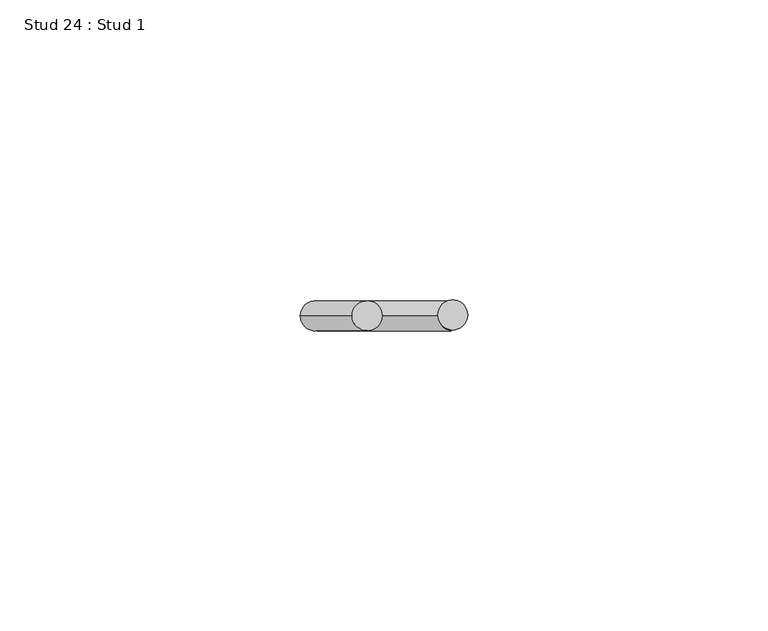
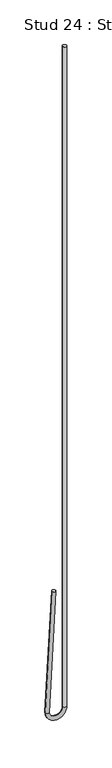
"""IFC4 building model written with IfcOpenShell, lengths in millimetres: proxy geometry, Stud 24 : Stud 1."""

from ifc_helpers import new_model, si_unit, point, frame, origin, place, context, project, spatial, circle_curve, ellipse_curve, trimmed, source, transform, mapped, element, save
from ifc_brep_helpers import plane_surface, cylinder_surface, revolved_surface, advanced_brep


def stud_24_stud_1_f3d8cce4(model_context):
    return source(origin(), model_context, "Body", "AdvancedBrep", [
        advanced_brep(
        [(-13440.3532788, 4624.5191481, 3640.800192), (-13435.3601311, 4624.5191481, 3640.5385122), (-13448.9939451, 4624.5191481, 3475.9264558), (-13444.0007975, 4624.5191481, 3475.664776), (-13426.0920812, 4624.5191481, 3475.7956159), (-13421.0920812, 4624.5191481, 3475.7956159), (-13421.0920812, 4624.5191481, 4390.1956159), (-13426.0920812, 4624.5191481, 4390.1956159)],
        [
            (0, 1, circle_curve(frame((-13437.8567049, 4624.5191481, 3640.6693521), z_axis=(0.05233595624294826, 0.0, 0.9986295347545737), x_axis=(0.9986295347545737, 0.0, -0.05233595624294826)), 2.5)),
            (1, 0, circle_curve(frame((-13437.8567049, 4624.5191481, 3640.6693521), z_axis=(0.05233595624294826, 0.0, 0.9986295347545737), x_axis=(0.9986295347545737, 0.0, -0.05233595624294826)), 2.5)),
            (0, 2),
            (2, 3, circle_curve(frame((-13446.4973713, 4624.5191481, 3475.7956159), z_axis=(0.05233595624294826, 0.0, 0.9986295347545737), x_axis=(0.9986295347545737, 0.0, -0.05233595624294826)), 2.5)),
            (3, 1),
            (3, 2, circle_curve(frame((-13446.4973713, 4624.5191481, 3475.7956159), z_axis=(0.05233595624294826, 0.0, 0.9986295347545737), x_axis=(0.9986295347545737, 0.0, -0.05233595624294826)), 2.5)),
            (4, 3, circle_curve(frame((-13435.0447263, 4624.5191481, 3475.7956159), z_axis=(0.0, 1.0, 0.0), x_axis=(-1.0, 0.0, 0.0)), 8.952645)),
            (2, 5, circle_curve(frame((-13435.0447263, 4624.5191481, 3475.7956159), z_axis=(0.0, -1.0, 0.0), x_axis=(-1.0, 0.0, 0.0)), 13.952645)),
            (5, 4, circle_curve(frame((-13423.5920812, 4624.5191481, 3475.7956159), z_axis=(0.0, 0.0, -1.0), x_axis=(-1.0, 0.0, 0.0)), 2.5)),
            (4, 5, circle_curve(frame((-13423.5920812, 4624.5191481, 3475.7956159), z_axis=(0.0, 0.0, -1.0), x_axis=(-1.0, 0.0, 0.0)), 2.5)),
            (6, 7, circle_curve(frame((-13423.5920812, 4624.5191481, 4390.1956159), z_axis=(0.0, 0.0, 1.0), x_axis=(-1.0, 0.0, 0.0)), 2.5)),
            (7, 6, circle_curve(frame((-13423.5920812, 4624.5191481, 4390.1956159), z_axis=(0.0, 0.0, 1.0), x_axis=(-1.0, 0.0, 0.0)), 2.5)),
            (5, 6),
            (7, 4),
        ],
        [
            plane_surface(frame((-13437.8567049, 5218.2441481, 3640.6693521), z_axis=(0.05233595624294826, 0.0, 0.9986295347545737), x_axis=(0.0, -1.0, 0.0))),
            cylinder_surface(frame((-13437.8567049, 4624.5191481, 3640.6693521), z_axis=(0.05233595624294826, 0.0, 0.9986295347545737), x_axis=(0.9986295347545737, 0.0, -0.05233595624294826)), 2.5),
            revolved_surface(trimmed(ellipse_curve(frame((-13446.4973713, 4624.5191481, 3475.7956159), z_axis=(0.0, 0.0, 1.0), x_axis=(1.0, 0.0, 0.0)), 2.5, 2.5), [point((-13448.9973713, 4624.5191481, 3475.7956159))], [point((-13443.9973713, 4624.5191481, 3475.7956159))], True, "CARTESIAN"), (-13435.0447263, 5218.2441481, 3475.7956159), (0.0, -1.0, 0.0)),
            revolved_surface(trimmed(ellipse_curve(frame((-13446.4973713, 4624.5191481, 3475.7956159), z_axis=(0.0, 0.0, 1.0), x_axis=(1.0, 0.0, 0.0)), 2.5, 2.5), [point((-13443.9973713, 4624.5191481, 3475.7956159))], [point((-13448.9973713, 4624.5191481, 3475.7956159))], True, "CARTESIAN"), (-13435.0447263, 5218.2441481, 3475.7956159), (0.0, -1.0, 0.0)),
            plane_surface(frame((-13423.5920812, 5218.2441481, 4390.1956159), z_axis=(0.0, 0.0, 1.0), x_axis=(0.0, -1.0, 0.0))),
            cylinder_surface(frame((-13423.5920812, 4624.5191481, 3475.7956159), z_axis=(0.0, 0.0, -1.0), x_axis=(-1.0, 0.0, 0.0)), 2.5),
        ],
        [
            (0, [[1, 2]]),
            (1, [[-1, 3, 4, 5]]),
            (1, [[-2, -5, 6, -3]]),
            (2, [[7, -4, 8, 9]]),
            (3, [[-8, -6, -7, 10]]),
            (4, [[11, 12]]),
            (5, [[-9, 13, -12, 14]]),
            (5, [[-10, -14, -11, -13]]),
        ],
    ),
    ])


if __name__ == "__main__":
    model = new_model("IFC4")
    model_context = context("Model", 3, world=origin())
    ifc_project = project(units=[si_unit("LENGTHUNIT", "METRE", prefix="MILLI")], contexts=[model_context])
    site = spatial("IfcSite", under=ifc_project)
    building = spatial("IfcBuilding", under=site)
    placement = place(None, origin())
    stud_24_stud_1_shape = stud_24_stud_1_f3d8cce4(model_context)
    element("IfcBuildingElementProxy", 1, Name="Stud 24 : Stud 1", ObjectType="Stud 24 : Stud 1", at=placement, inside=building, context=model_context, shape_type="MappedRepresentation", body=[
        mapped(stud_24_stud_1_shape, transform((0.0, 0.0, 0.0), x_axis=(1.0, 0.0, 0.0), y_axis=(0.0, 1.0, 0.0), z_axis=(0.0, 0.0, 1.0))),
    ])
    save(model, "model.ifc")
